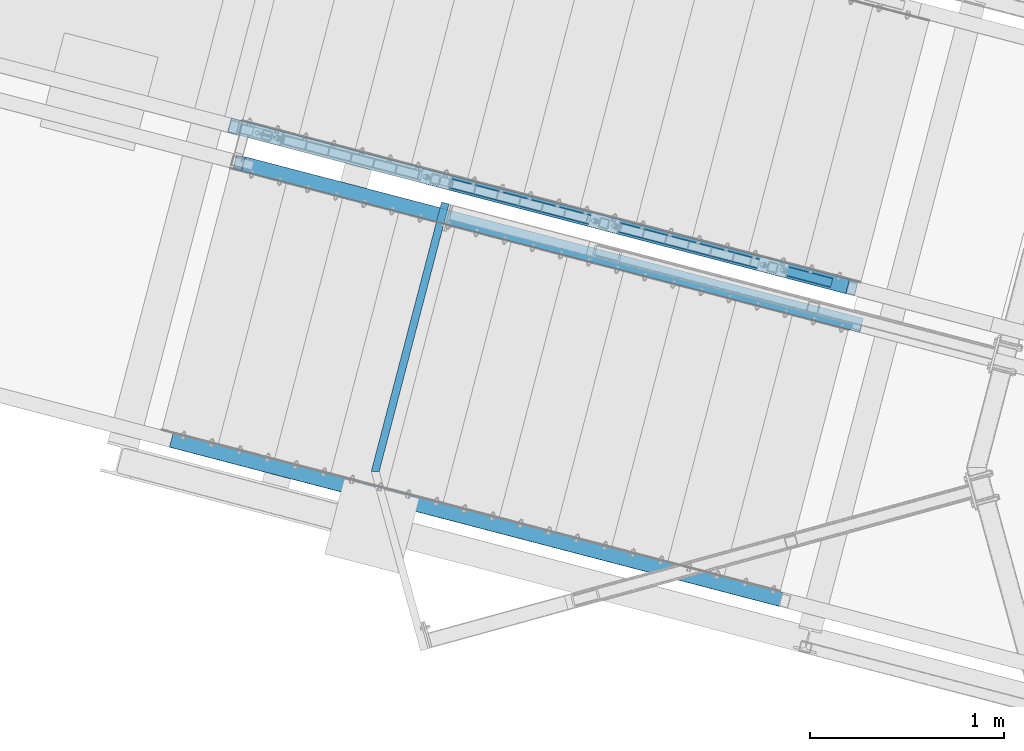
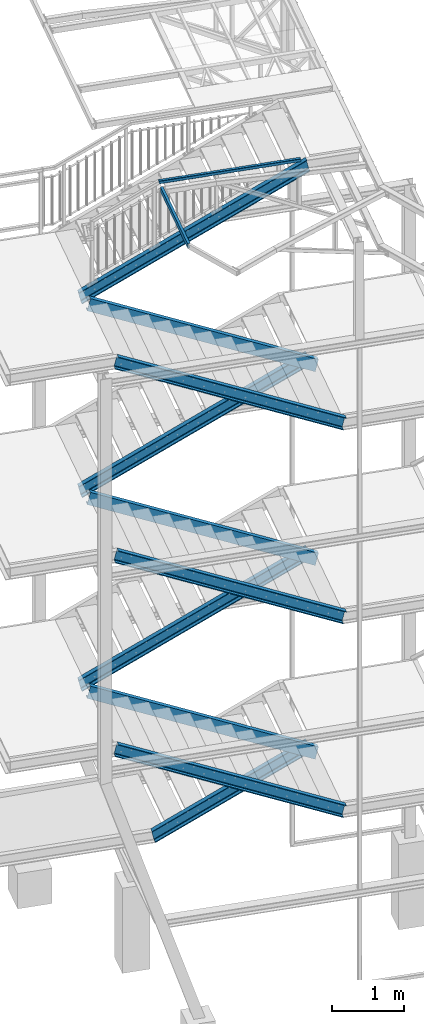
# One storey, part 10 of 169: 10 members, 2 beams, 12 elements without a shape of their own.
"""IFC2X3 building model written with IfcOpenShell, lengths in millimetres."""

from ifc_helpers import new_model, si_unit, frame, origin_with_axes, origin_2d_with_axis, place, context, subcontext, project, spatial, hollow_rectangle, u_section, extrude, clip, halfspace, material, type_object, element, aggregate, save


model = new_model("IFC2X3")

# Units and contexts
model_context = context("Model", 3, precision=1e-05, world=origin_with_axes())
body_context = subcontext(model_context, "Body", "Model", "MODEL_VIEW")
ifc_project = project(units=[si_unit("LENGTHUNIT", "METRE", prefix="MILLI"), si_unit("AREAUNIT", "SQUARE_METRE"), si_unit("VOLUMEUNIT", "CUBIC_METRE"), si_unit("MASSUNIT", "GRAM", prefix="KILO"), si_unit("TIMEUNIT", "SECOND"), si_unit("PLANEANGLEUNIT", "RADIAN"), si_unit("SOLIDANGLEUNIT", "STERADIAN"), si_unit("THERMODYNAMICTEMPERATUREUNIT", "DEGREE_CELSIUS"), si_unit("LUMINOUSINTENSITYUNIT", "LUMEN")], contexts=[model_context])

# Site, building, storey
site_placement = place(None, origin_with_axes())
site = spatial("IfcSite", under=ifc_project, at=site_placement, Name="Undefined", CompositionType="ELEMENT")
building_placement = place(site_placement, origin_with_axes())
building = spatial("IfcBuilding", under=site, at=building_placement, Name="Undefined", CompositionType="ELEMENT")
storey_placement = place(building_placement, origin_with_axes())
storey = spatial("IfcBuildingStorey", under=building, at=storey_placement, Name="Undefined", CompositionType="ELEMENT", Elevation=0.0)

# Assembly, beam
assembly_1_placement = place(storey_placement, origin_with_axes())
assembly_1 = element("IfcElementAssembly", 1, at=assembly_1_placement, inside=storey, Name="Steel Assembly", AssemblyPlace="NOTDEFINED", PredefinedType="RIGID_FRAME")
ifc_material = material(Name="STEEL/S235")
beam_type_1 = type_object("IfcBeamType", Name="C80*40*3", PredefinedType="NOTDEFINED")
beam_1_placement = place(assembly_1_placement, frame((-26872.2874158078, 6986.85155943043, 13949.0545873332), z_axis=(8.00909999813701e-05, -0.000162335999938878, -0.999999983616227), x_axis=(-0.252628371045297, -0.967563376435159, 0.000136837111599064)))
beam_1 = element("IfcBeam", 2, at=beam_1_placement, type_object=beam_type_1, material=ifc_material, Name="BEAM", ObjectType="C80*40*3", context=body_context, shape_type="Clipping", body=[
    clip(extrude(u_section(Depth=80.0, FlangeWidth=40.0, WebThickness=3.0, FlangeThickness=3.0, FilletRadius=4.5, at=origin_2d_with_axis()), frame((1448.56070028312, -2.45927402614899e-14, 0.0), z_axis=(-1.0, -3.46944695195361e-18, -1.38777878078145e-17), x_axis=(1.73472347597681e-18, -1.0, 0.0)), (0.0, 0.0, 1.0), 1448.56), halfspace(frame((1438.6065944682, 20.0000000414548, -0.00211157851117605), z_axis=(-0.965924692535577, 0.258823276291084, 1.01328658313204e-10), x_axis=(0.0, 0.0, 1.0)), True)),
])
aggregate(assembly_1, [beam_1])

assembly_2_placement = place(storey_placement, origin_with_axes())
assembly_2 = element("IfcElementAssembly", 3, at=assembly_2_placement, inside=storey, Name="Steel Assembly", AssemblyPlace="NOTDEFINED", PredefinedType="RIGID_FRAME")
beam_type_2 = type_object("IfcBeamType", Name="RHS50*3", PredefinedType="NOTDEFINED")
beam_2_placement = place(assembly_2_placement, frame((-24876.8678719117, 6574.37979006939, 14005.1970300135), z_axis=(-0.252628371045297, -0.967563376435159, 0.000136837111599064), x_axis=(-0.967563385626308, 0.252628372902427, -1.72000000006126e-07)))
beam_2 = element("IfcBeam", 4, at=beam_2_placement, type_object=beam_type_2, material=ifc_material, Name="PORĘCZ", ObjectType="RHS50*3", context=body_context, shape_type="Clipping", body=[
    clip(extrude(hollow_rectangle(XDim=50.0, YDim=50.0, WallThickness=3.0, InnerFilletRadius=3.0, OuterFilletRadius=6.0, at=origin_2d_with_axis()), frame((2079.65023760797, 2.81845163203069e-17, -9.08616231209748e-13), z_axis=(-1.0, -3.46944695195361e-18, -1.38777878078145e-17), x_axis=(1.73472347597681e-18, -1.0, 0.0)), (0.0, 0.0, 1.0), 2079.65), halfspace(frame((2054.90170139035, -25.0000000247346, 3.78448348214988e-07), z_axis=(-0.973248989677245, -0.22975291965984, 5.59252465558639e-10), x_axis=(-2.54700353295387e-10, 0.0, -1.0)), True)),
])
aggregate(assembly_2, [beam_2])

# Assembly, member
assembly_3_placement = place(storey_placement, origin_with_axes())
assembly_3 = element("IfcElementAssembly", 5, at=assembly_3_placement, inside=storey, Name="Steel Assembly", AssemblyPlace="NOTDEFINED", PredefinedType="RIGID_FRAME")
member_type = type_object("IfcMemberType", Name="UPN200", PredefinedType="NOTDEFINED")
member_1_placement = place(assembly_3_placement, frame((-27943.6894546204, 7377.47212221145, 12260.6530666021), z_axis=(-0.432715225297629, 0.11294923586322, 0.894427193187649), x_axis=(0.8654304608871, -0.225898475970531, 0.447213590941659)))
member_1 = element("IfcMember", 6, at=member_1_placement, type_object=member_type, material=ifc_material, Name="BELKA", ObjectType="UPN200", context=body_context, shape_type="Clipping", body=[
    clip(clip(extrude(u_section(Depth=200.0, FlangeWidth=75.0, WebThickness=8.5, FlangeThickness=11.5, FilletRadius=11.5, EdgeRadius=6.0, at=origin_2d_with_axis()), frame((3832.00804040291, 4.39404765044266e-13, 3.63797880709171e-12), z_axis=(-1.0, -3.46944695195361e-18, -1.38777878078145e-17), x_axis=(1.73472347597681e-18, -1.0, 0.0)), (0.0, 0.0, 1.0), 4021.72), halfspace(frame((3689.512165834, -37.4999985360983, 100.000000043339), z_axis=(-0.973248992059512, 5.5925641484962e-10, 0.229752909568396), x_axis=(1.73472347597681e-18, -1.0, 0.0)), True)), halfspace(frame((3.62019272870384e-06, -1.1159072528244e-06, 100.000000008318), z_axis=(-0.973248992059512, 5.5925641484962e-10, 0.229752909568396), x_axis=(1.73472347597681e-18, -1.0, 0.0)), False)),
])
aggregate(assembly_3, [member_1])

assembly_4_placement = place(storey_placement, origin_with_axes())
assembly_4 = element("IfcElementAssembly", 7, at=assembly_4_placement, inside=storey, Name="Steel Assembly", AssemblyPlace="NOTDEFINED", PredefinedType="RIGID_FRAME")
member_2_placement = place(assembly_4_placement, frame((-28331.0578015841, 5773.29840873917, 12260.8788476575), z_axis=(0.432699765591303, -0.11300844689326, 0.894427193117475), x_axis=(0.865399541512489, -0.226016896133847, -0.44721359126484)))
member_2 = element("IfcMember", 8, at=member_2_placement, type_object=member_type, material=ifc_material, Name="BELKA", ObjectType="UPN200", context=body_context, shape_type="Clipping", body=[
    clip(clip(extrude(u_section(Depth=200.0, FlangeWidth=75.0, WebThickness=8.5, FlangeThickness=11.5, FilletRadius=11.5, EdgeRadius=6.0, at=origin_2d_with_axis()), frame((3879.23780839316, -7.67769286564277e-13, 1.36424205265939e-12), z_axis=(-1.0, -3.46944695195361e-18, -1.38777878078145e-17), x_axis=(1.73472347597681e-18, -1.0, 0.0)), (0.0, 0.0, 1.0), 4021.75), halfspace(frame((3689.51216616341, 2.91399146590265e-07, 100.000000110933), z_axis=(0.973248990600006, 4.16118517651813e-10, 0.229752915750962), x_axis=(0.0, 1.0, 0.0)), False)), halfspace(frame((3.32713170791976e-06, -37.5000000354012, 100.000000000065), z_axis=(-0.973248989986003, -3.54065919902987e-15, -0.229752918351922), x_axis=(1.73472347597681e-18, -1.0, 0.0)), False)),
])
aggregate(assembly_4, [member_2])

assembly_5_placement = place(storey_placement, origin_with_axes())
assembly_5 = element("IfcElementAssembly", 9, at=assembly_5_placement, inside=storey, Name="Steel Assembly", AssemblyPlace="NOTDEFINED", PredefinedType="RIGID_FRAME")
member_3_placement = place(assembly_5_placement, frame((-24765.4311747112, 6366.53681656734, 10610.8788630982), z_axis=(0.432699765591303, -0.11300844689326, 0.894427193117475), x_axis=(-0.865399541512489, 0.226016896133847, 0.44721359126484)))
member_3 = element("IfcMember", 10, at=member_3_placement, type_object=member_type, material=ifc_material, Name="BELKA", ObjectType="UPN200", context=body_context, shape_type="Clipping", body=[
    clip(clip(extrude(u_section(Depth=200.0, FlangeWidth=75.0, WebThickness=8.5, FlangeThickness=11.5, FilletRadius=11.5, EdgeRadius=6.0, at=origin_2d_with_axis()), frame((3832.02421321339, 9.10153981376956e-13, -4.54747350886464e-13), z_axis=(-1.0, -3.46944695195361e-18, -1.38777878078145e-17), x_axis=(1.73472347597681e-18, -1.0, 0.0)), (0.0, 0.0, 1.0), 4021.75), halfspace(frame((3689.512165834, -37.4999985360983, 100.000000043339), z_axis=(-0.973248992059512, 5.5925641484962e-10, 0.229752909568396), x_axis=(1.73472347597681e-18, -1.0, 0.0)), True)), halfspace(frame((3.62019272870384e-06, -1.1159072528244e-06, 100.000000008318), z_axis=(-0.973248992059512, 5.5925641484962e-10, 0.229752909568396), x_axis=(1.73472347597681e-18, -1.0, 0.0)), False)),
])
aggregate(assembly_5, [member_3])

assembly_6_placement = place(storey_placement, origin_with_axes())
assembly_6 = element("IfcElementAssembly", 11, at=assembly_6_placement, inside=storey, Name="Steel Assembly", AssemblyPlace="NOTDEFINED", PredefinedType="RIGID_FRAME")
member_4_placement = place(assembly_6_placement, frame((-27943.80353202, 7377.03520725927, 8960.65309749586), z_axis=(-0.432715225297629, 0.11294923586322, 0.894427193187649), x_axis=(0.8654304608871, -0.225898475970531, 0.447213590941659)))
member_4 = element("IfcMember", 12, at=member_4_placement, type_object=member_type, material=ifc_material, Name="BELKA", ObjectType="UPN200", context=body_context, shape_type="Clipping", body=[
    clip(clip(extrude(u_section(Depth=200.0, FlangeWidth=75.0, WebThickness=8.5, FlangeThickness=11.5, FilletRadius=11.5, EdgeRadius=6.0, at=origin_2d_with_axis()), frame((3832.00804040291, 4.39404765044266e-13, 3.63797880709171e-12), z_axis=(-1.0, -3.46944695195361e-18, -1.38777878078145e-17), x_axis=(1.73472347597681e-18, -1.0, 0.0)), (0.0, 0.0, 1.0), 4021.72), halfspace(frame((3689.512165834, -37.4999985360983, 100.000000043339), z_axis=(-0.973248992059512, 5.5925641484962e-10, 0.229752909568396), x_axis=(1.73472347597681e-18, -1.0, 0.0)), True)), halfspace(frame((3.62019272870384e-06, -1.1159072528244e-06, 100.000000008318), z_axis=(-0.973248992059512, 5.5925641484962e-10, 0.229752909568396), x_axis=(1.73472347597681e-18, -1.0, 0.0)), False)),
])
aggregate(assembly_6, [member_4])

assembly_7_placement = place(storey_placement, origin_with_axes())
assembly_7 = element("IfcElementAssembly", 13, at=assembly_7_placement, inside=storey, Name="Steel Assembly", AssemblyPlace="NOTDEFINED", PredefinedType="RIGID_FRAME")
member_5_placement = place(assembly_7_placement, frame((-28331.1718790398, 5772.86149378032, 8960.8788785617), z_axis=(0.432699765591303, -0.11300844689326, 0.894427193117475), x_axis=(0.865399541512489, -0.226016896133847, -0.44721359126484)))
member_5 = element("IfcMember", 14, at=member_5_placement, type_object=member_type, material=ifc_material, Name="BELKA", ObjectType="UPN200", context=body_context, shape_type="Clipping", body=[
    clip(clip(extrude(u_section(Depth=200.0, FlangeWidth=75.0, WebThickness=8.5, FlangeThickness=11.5, FilletRadius=11.5, EdgeRadius=6.0, at=origin_2d_with_axis()), frame((3879.23780839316, -7.67769286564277e-13, 1.36424205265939e-12), z_axis=(-1.0, -3.46944695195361e-18, -1.38777878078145e-17), x_axis=(1.73472347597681e-18, -1.0, 0.0)), (0.0, 0.0, 1.0), 4021.75), halfspace(frame((3689.51216616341, 2.91399146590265e-07, 100.000000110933), z_axis=(0.973248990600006, 4.16118517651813e-10, 0.229752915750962), x_axis=(0.0, 1.0, 0.0)), False)), halfspace(frame((3.32713170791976e-06, -37.5000000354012, 100.000000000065), z_axis=(-0.973248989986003, -3.54065919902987e-15, -0.229752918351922), x_axis=(1.73472347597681e-18, -1.0, 0.0)), False)),
])
aggregate(assembly_7, [member_5])

assembly_8_placement = place(storey_placement, origin_with_axes())
assembly_8 = element("IfcElementAssembly", 15, at=assembly_8_placement, inside=storey, Name="Steel Assembly", AssemblyPlace="NOTDEFINED", PredefinedType="RIGID_FRAME")
member_6_placement = place(assembly_8_placement, frame((-24765.5452521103, 6366.09990161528, 7310.87889399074), z_axis=(0.432699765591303, -0.11300844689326, 0.894427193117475), x_axis=(-0.865399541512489, 0.226016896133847, 0.44721359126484)))
member_6 = element("IfcMember", 16, at=member_6_placement, type_object=member_type, material=ifc_material, Name="BELKA", ObjectType="UPN200", context=body_context, shape_type="Clipping", body=[
    clip(clip(extrude(u_section(Depth=200.0, FlangeWidth=75.0, WebThickness=8.5, FlangeThickness=11.5, FilletRadius=11.5, EdgeRadius=6.0, at=origin_2d_with_axis()), frame((3832.02421321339, 9.10153981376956e-13, -4.54747350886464e-13), z_axis=(-1.0, -3.46944695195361e-18, -1.38777878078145e-17), x_axis=(1.73472347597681e-18, -1.0, 0.0)), (0.0, 0.0, 1.0), 4021.75), halfspace(frame((3689.512165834, -37.4999985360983, 100.000000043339), z_axis=(-0.973248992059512, 5.5925641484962e-10, 0.229752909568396), x_axis=(1.73472347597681e-18, -1.0, 0.0)), True)), halfspace(frame((3.62019272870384e-06, -1.1159072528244e-06, 100.000000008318), z_axis=(-0.973248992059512, 5.5925641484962e-10, 0.229752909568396), x_axis=(1.73472347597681e-18, -1.0, 0.0)), False)),
])
aggregate(assembly_8, [member_6])

assembly_9_placement = place(storey_placement, origin_with_axes())
assembly_9 = element("IfcElementAssembly", 17, at=assembly_9_placement, inside=storey, Name="Steel Assembly", AssemblyPlace="NOTDEFINED", PredefinedType="RIGID_FRAME")
member_7_placement = place(assembly_9_placement, frame((-27943.9176094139, 7376.59829230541, 5660.65312839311), z_axis=(-0.432715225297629, 0.11294923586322, 0.894427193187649), x_axis=(0.8654304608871, -0.225898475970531, 0.447213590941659)))
member_7 = element("IfcMember", 18, at=member_7_placement, type_object=member_type, material=ifc_material, Name="BELKA", ObjectType="UPN200", context=body_context, shape_type="Clipping", body=[
    clip(clip(extrude(u_section(Depth=200.0, FlangeWidth=75.0, WebThickness=8.5, FlangeThickness=11.5, FilletRadius=11.5, EdgeRadius=6.0, at=origin_2d_with_axis()), frame((3832.00804040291, 4.39404765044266e-13, 3.63797880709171e-12), z_axis=(-1.0, -3.46944695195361e-18, -1.38777878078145e-17), x_axis=(1.73472347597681e-18, -1.0, 0.0)), (0.0, 0.0, 1.0), 4021.72), halfspace(frame((3689.512165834, -37.4999985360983, 100.000000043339), z_axis=(-0.973248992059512, 5.5925641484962e-10, 0.229752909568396), x_axis=(1.73472347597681e-18, -1.0, 0.0)), True)), halfspace(frame((3.62019272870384e-06, -1.1159072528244e-06, 100.000000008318), z_axis=(-0.973248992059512, 5.5925641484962e-10, 0.229752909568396), x_axis=(1.73472347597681e-18, -1.0, 0.0)), False)),
])
aggregate(assembly_9, [member_7])

assembly_10_placement = place(storey_placement, origin_with_axes())
assembly_10 = element("IfcElementAssembly", 19, at=assembly_10_placement, inside=storey, Name="Steel Assembly", AssemblyPlace="NOTDEFINED", PredefinedType="RIGID_FRAME")
member_8_placement = place(assembly_10_placement, frame((-28331.285956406, 5772.4245788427, 5660.87890945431), z_axis=(0.432699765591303, -0.11300844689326, 0.894427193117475), x_axis=(0.865399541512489, -0.226016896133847, -0.44721359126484)))
member_8 = element("IfcMember", 20, at=member_8_placement, type_object=member_type, material=ifc_material, Name="BELKA", ObjectType="UPN200", context=body_context, shape_type="Clipping", body=[
    clip(clip(extrude(u_section(Depth=200.0, FlangeWidth=75.0, WebThickness=8.5, FlangeThickness=11.5, FilletRadius=11.5, EdgeRadius=6.0, at=origin_2d_with_axis()), frame((3879.23780839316, -7.67769286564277e-13, 1.36424205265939e-12), z_axis=(-1.0, -3.46944695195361e-18, -1.38777878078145e-17), x_axis=(1.73472347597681e-18, -1.0, 0.0)), (0.0, 0.0, 1.0), 4021.75), halfspace(frame((3689.51216616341, 2.91399146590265e-07, 100.000000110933), z_axis=(0.973248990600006, 4.16118517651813e-10, 0.229752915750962), x_axis=(0.0, 1.0, 0.0)), False)), halfspace(frame((3.32713170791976e-06, -37.5000000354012, 100.000000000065), z_axis=(-0.973248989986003, -3.54065919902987e-15, -0.229752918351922), x_axis=(1.73472347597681e-18, -1.0, 0.0)), False)),
])
aggregate(assembly_10, [member_8])

assembly_11_placement = place(storey_placement, origin_with_axes())
assembly_11 = element("IfcElementAssembly", 21, at=assembly_11_placement, inside=storey, Name="Steel Assembly", AssemblyPlace="NOTDEFINED", PredefinedType="RIGID_FRAME")
member_9_placement = place(assembly_11_placement, frame((-24765.6593295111, 6365.66298667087, 4010.87892489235), z_axis=(0.432699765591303, -0.11300844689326, 0.894427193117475), x_axis=(-0.865399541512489, 0.226016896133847, 0.44721359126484)))
member_9 = element("IfcMember", 22, at=member_9_placement, type_object=member_type, material=ifc_material, Name="BELKA", ObjectType="UPN200", context=body_context, shape_type="Clipping", body=[
    clip(clip(extrude(u_section(Depth=200.0, FlangeWidth=75.0, WebThickness=8.5, FlangeThickness=11.5, FilletRadius=11.5, EdgeRadius=6.0, at=origin_2d_with_axis()), frame((3832.02421321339, 9.10153981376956e-13, -4.54747350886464e-13), z_axis=(-1.0, -3.46944695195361e-18, -1.38777878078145e-17), x_axis=(1.73472347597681e-18, -1.0, 0.0)), (0.0, 0.0, 1.0), 4021.75), halfspace(frame((3689.512165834, -37.4999985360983, 100.000000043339), z_axis=(-0.973248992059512, 5.5925641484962e-10, 0.229752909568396), x_axis=(1.73472347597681e-18, -1.0, 0.0)), True)), halfspace(frame((3.62019272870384e-06, -1.1159072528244e-06, 100.000000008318), z_axis=(-0.973248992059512, 5.5925641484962e-10, 0.229752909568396), x_axis=(1.73472347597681e-18, -1.0, 0.0)), False)),
])
aggregate(assembly_11, [member_9])

assembly_12_placement = place(storey_placement, origin_with_axes())
assembly_12 = element("IfcElementAssembly", 23, at=assembly_12_placement, inside=storey, Name="Steel Assembly", AssemblyPlace="NOTDEFINED", PredefinedType="RIGID_FRAME")
member_10_placement = place(assembly_12_placement, frame((-26918.3961750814, 7108.44547288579, 2890.65315507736), z_axis=(-0.432715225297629, 0.11294923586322, 0.894427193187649), x_axis=(0.8654304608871, -0.225898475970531, 0.447213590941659)))
member_10 = element("IfcMember", 24, at=member_10_placement, type_object=member_type, material=ifc_material, Name="BELKA", ObjectType="UPN200", context=body_context, shape_type="Clipping", body=[
    clip(clip(extrude(u_section(Depth=200.0, FlangeWidth=75.0, WebThickness=8.5, FlangeThickness=11.5, FilletRadius=11.5, EdgeRadius=6.0, at=origin_2d_with_axis()), frame((2646.8920096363, 9.22682489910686e-13, -1.81898940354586e-12), z_axis=(-1.0, -3.46944695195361e-18, -1.38777878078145e-17), x_axis=(1.73472347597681e-18, -1.0, 0.0)), (0.0, 0.0, 1.0), 2836.6), halfspace(frame((2504.39613512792, -37.4999989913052, 100.000000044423), z_axis=(-0.973248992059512, 5.5925641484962e-10, 0.229752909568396), x_axis=(1.73472347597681e-18, -1.0, 0.0)), True)), halfspace(frame((3.62019272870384e-06, -1.1159072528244e-06, 100.000000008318), z_axis=(-0.973248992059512, 5.5925641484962e-10, 0.229752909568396), x_axis=(1.73472347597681e-18, -1.0, 0.0)), False)),
])
aggregate(assembly_12, [member_10])

save(model, "model.ifc")
